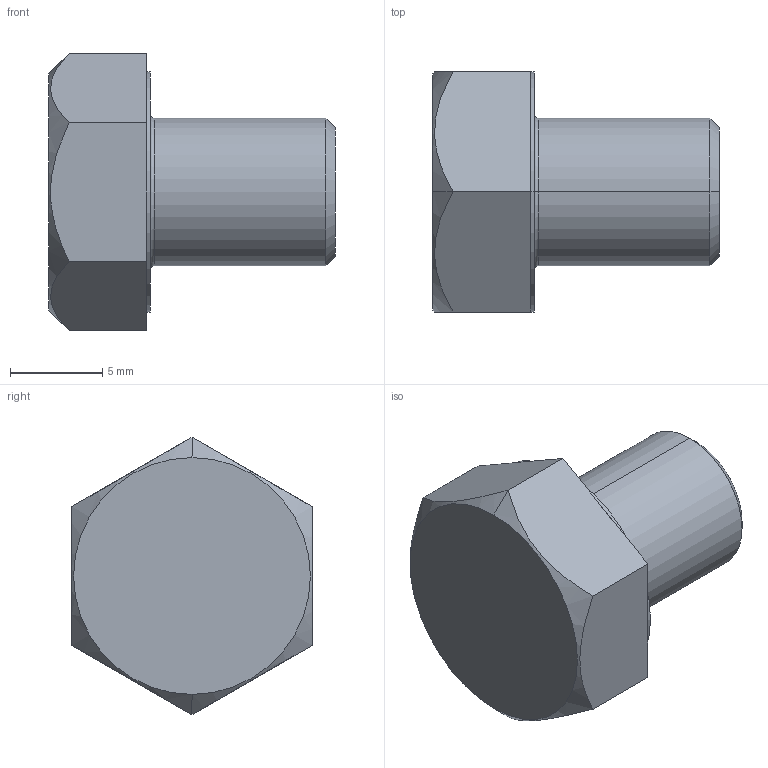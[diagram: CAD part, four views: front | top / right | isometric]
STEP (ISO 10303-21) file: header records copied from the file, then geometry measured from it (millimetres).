
FILE_DESCRIPTION (( 'STEP AP203' ), '1' );
FILE_NAME ('LGN-TD-M8x10.STEP', '2026-08-14T04:10:58', ( '' ), ( '' ), 'SwSTEP 2.0', 'SolidWorks 2020', '' );
FILE_SCHEMA (( 'CONFIG_CONTROL_DESIGN' ));
Length unit declared in the file: millimetre
Products named in the file (1): LGN-TD-M8x10
Bounding box: 15.5 x 13 x 15.01 mm (x, y, z)
Volume: 1296.5 mm3; surface area: 768.5 mm2
Topology: 1 solids, 1 shells, 25 faces, 54 edges, 32 vertices
Faces by surface type: plane 15, cone 4, cylinder 4, torus 2
Entity records: 809 total; most frequent: CARTESIAN_POINT 182, DIRECTION 122, ORIENTED_EDGE 108, EDGE_CURVE 54, AXIS2_PLACEMENT_3D 48, VERTEX_POINT 32, LINE 26, EDGE_LOOP 26
